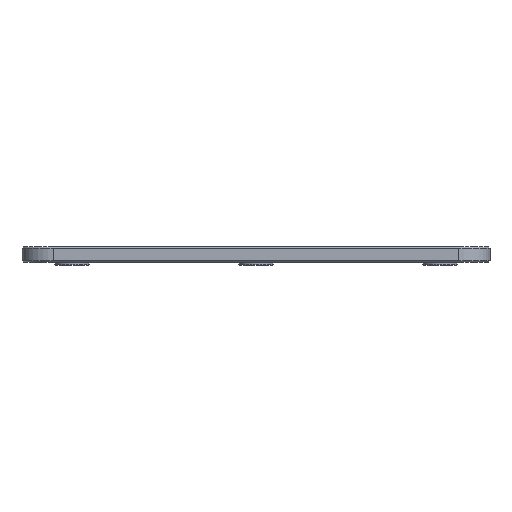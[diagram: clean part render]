
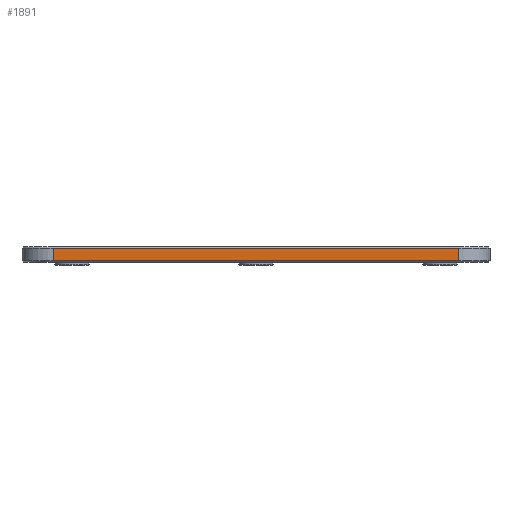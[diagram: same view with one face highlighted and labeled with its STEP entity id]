
A CAD part, front view. The second image highlights one B-rep face of the part: STEP entity #1891.
In plain terms, the highlighted planar face has unit normal (0, -1, 0).
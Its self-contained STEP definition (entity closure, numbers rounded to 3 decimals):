
#904=FACE_OUTER_BOUND('',#3224,.T.);
#1042=LINE('',#16599,#1191);
#1043=LINE('',#16602,#1192);
#1044=LINE('',#16604,#1193);
#1045=LINE('',#16606,#1194);
#1191=VECTOR('',#9794,1.);
#1192=VECTOR('',#9795,1.);
#1193=VECTOR('',#9796,1.);
#1194=VECTOR('',#9797,1.);
#1670=PLANE('',#8723);
#1891=ADVANCED_FACE('',(#904),#1670,.T.);
#3224=EDGE_LOOP('',(#5409,#5410,#5411,#5412));
#5409=ORIENTED_EDGE('',*,*,#7931,.T.);
#5410=ORIENTED_EDGE('',*,*,#7932,.T.);
#5411=ORIENTED_EDGE('',*,*,#7933,.T.);
#5412=ORIENTED_EDGE('',*,*,#7934,.T.);
#6815=VERTEX_POINT('',#16600);
#6816=VERTEX_POINT('',#16601);
#6817=VERTEX_POINT('',#16603);
#6818=VERTEX_POINT('',#16605);
#7931=EDGE_CURVE('',#6815,#6816,#1042,.T.);
#7932=EDGE_CURVE('',#6816,#6817,#1043,.T.);
#7933=EDGE_CURVE('',#6817,#6818,#1044,.T.);
#7934=EDGE_CURVE('',#6818,#6815,#1045,.T.);
#8723=AXIS2_PLACEMENT_3D('',#16607,#9798,#9799);
#9794=DIRECTION('',(0.,0.,1.));
#9795=DIRECTION('',(-1.,0.,0.));
#9796=DIRECTION('',(0.,0.,-1.));
#9797=DIRECTION('',(1.,0.,0.));
#9798=DIRECTION('',(0.,-1.,0.));
#9799=DIRECTION('',(1.,0.,0.));
#16599=CARTESIAN_POINT('',(130.,-150.,0.));
#16600=CARTESIAN_POINT('',(130.,-150.,-9.));
#16601=CARTESIAN_POINT('',(130.,-150.,-1.));
#16602=CARTESIAN_POINT('',(-130.,-150.,-1.));
#16603=CARTESIAN_POINT('',(-130.,-150.,-1.));
#16604=CARTESIAN_POINT('',(-130.,-150.,0.));
#16605=CARTESIAN_POINT('',(-130.,-150.,-9.));
#16606=CARTESIAN_POINT('',(150.,-150.,-9.));
#16607=CARTESIAN_POINT('',(150.,-150.,0.));
